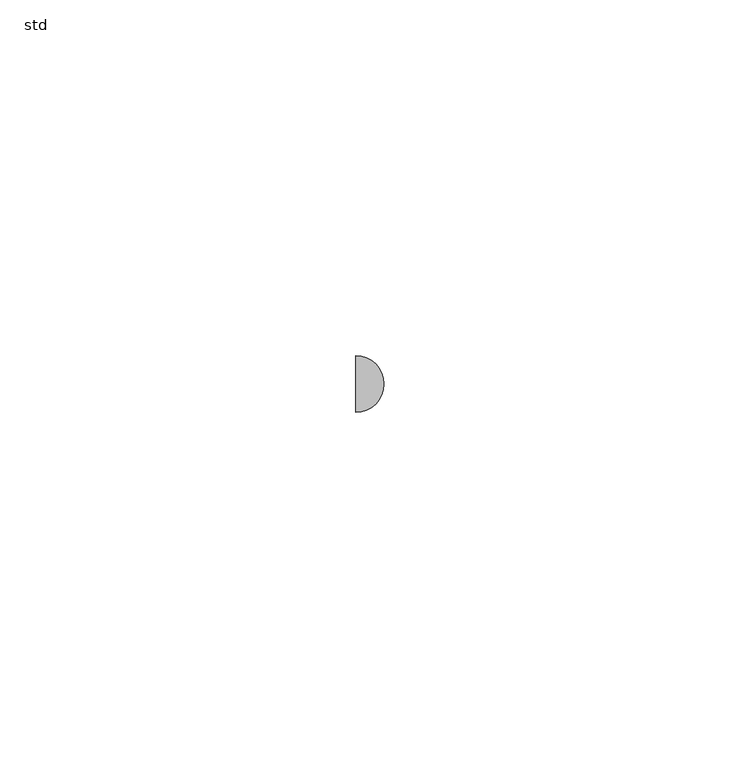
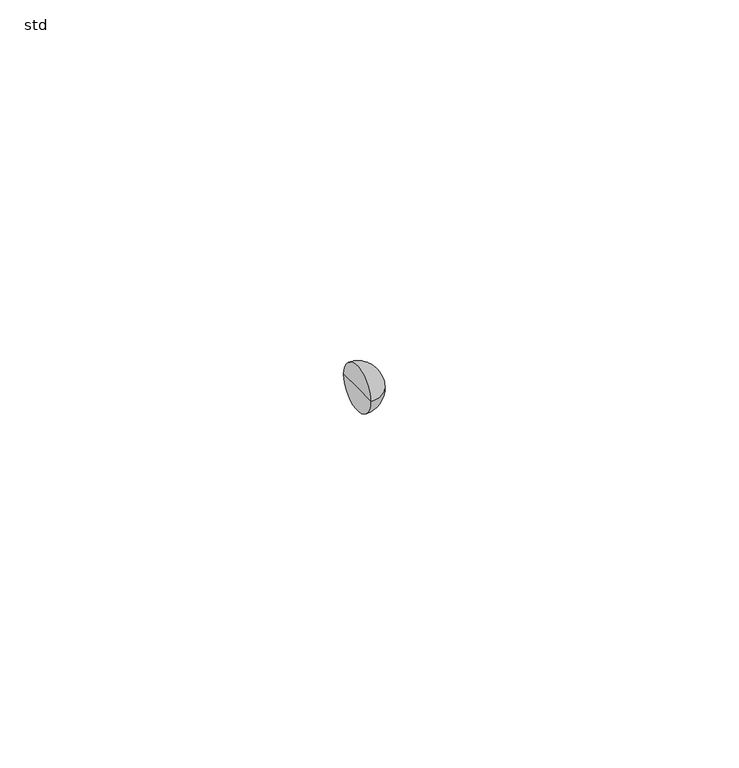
"""IFC4 building model written with IfcOpenShell, lengths in millimetres: pipe fitting geometry, PIF_ST_UN_GM-X double bend_ACO : std."""

from ifc_helpers import new_model, si_unit, point, frame, origin, place, context, project, spatial, circle_curve, ellipse_curve, trimmed, source, transform, mapped, element, save
from ifc_brep_helpers import plane_surface, revolved_surface, advanced_brep


def std_f0847e49(model_context):
    return source(origin(), model_context, "Body", "AdvancedBrep", [
        advanced_brep(
        [(-179.8650071, -4.0, 0.0), (-179.8650071, 4.0, 0.0), (-175.8650071, 0.0, 0.0), (-179.8650071, 0.0, 0.0)],
        [
            (0, 1, circle_curve(frame((-179.8650071, 0.0, 0.0), z_axis=(1.0, 0.0, 0.0), x_axis=(0.0, 1.0, 0.0)), 4.0)),
            (1, 2, circle_curve(frame((-179.8650071, 0.0, 0.0), z_axis=(0.0, 0.0, -1.0), x_axis=(-1.0, 0.0, 0.0)), 4.0)),
            (2, 0, circle_curve(frame((-179.8650071, 0.0, 0.0), z_axis=(0.0, 0.0, -1.0), x_axis=(-1.0, 0.0, 0.0)), 4.0)),
            (1, 0, circle_curve(frame((-179.8650071, 0.0, 0.0), z_axis=(1.0, 0.0, 0.0), x_axis=(0.0, 1.0, 0.0)), 4.0)),
            (3, 1),
            (0, 3),
        ],
        [
            revolved_surface(trimmed(ellipse_curve(frame((-179.8650071, 0.0, 0.0), z_axis=(0.0, 0.0, 1.0), x_axis=(-1.0, 0.0, 0.0)), 4.0, 4.0), [point((-175.8650071, 0.0, 0.0))], [point((-179.8650071, 4.0, 0.0))], True, "CARTESIAN"), (-186.8566844, 0.0, 0.0), (-1.0, 0.0, 0.0)),
            plane_surface(frame((-179.8650071, 0.0, 0.0), z_axis=(-1.0, 0.0, 0.0), x_axis=(0.0, 1.0, 0.0))),
        ],
        [
            (0, [[1, 2, 3]]),
            (0, [[4, -3, -2]]),
            (1, [[5, -1, 6]]),
            (1, [[-6, -4, -5]]),
        ],
    ),
    ])


if __name__ == "__main__":
    model = new_model("IFC4")
    model_context = context("Model", 3, world=origin())
    ifc_project = project(units=[si_unit("LENGTHUNIT", "METRE", prefix="MILLI")], contexts=[model_context])
    site = spatial("IfcSite", under=ifc_project)
    building = spatial("IfcBuilding", under=site)
    placement = place(None, origin())
    std_shape = std_f0847e49(model_context)
    element("IfcPipeFitting", 1, ObjectType="PIF_ST_UN_GM-X double bend_ACO : std", at=placement, inside=building, context=model_context, shape_type="MappedRepresentation", body=[
        mapped(std_shape, transform((0.0, 0.0, 0.0), x_axis=(1.0, 0.0, 0.0), y_axis=(0.0, 1.0, 0.0), z_axis=(0.0, 0.0, 1.0))),
    ])
    save(model, "model.ifc")
